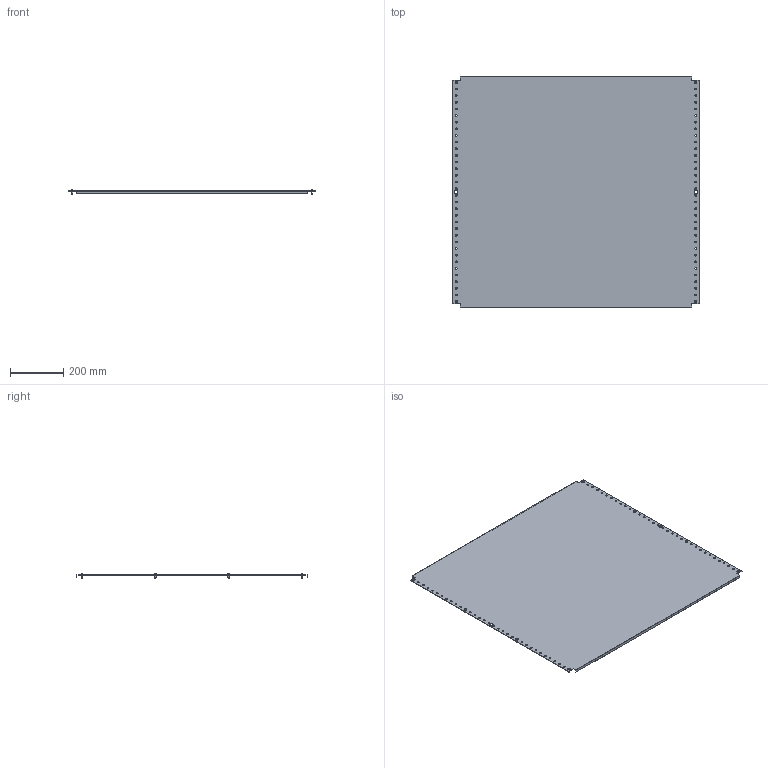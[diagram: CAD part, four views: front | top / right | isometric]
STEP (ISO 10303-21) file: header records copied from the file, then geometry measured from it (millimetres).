
FILE_DESCRIPTION (( 'STEP AP203' ), '1' );
FILE_NAME ('R6MP10100.STEP', '2025-03-28T12:04:52', ( '' ), ( '' ), 'SwSTEP 2.0', 'SolidWorks 2022', '' );
FILE_SCHEMA (( 'CONFIG_CONTROL_DESIGN' ));
Length unit declared in the file: millimetre
Products named in the file (3): RB.3293.00.00.0_-04; M5x12 DIN 7500 C Torx Zinc_stright; R6MP10100
Assembly tree (9 placements, depth 2):
  R6MP10100
    RB.3293.00.00.0_-04
    M5x12 DIN 7500 C Torx Zinc_stright  x8
Bounding box: 925 x 870 x 15.56 mm (x, y, z)
Volume: 1470183.3 mm3; surface area: 1642338.9 mm2
Topology: 9 solids, 9 shells, 230 faces, 540 edges, 336 vertices
Faces by surface type: plane 94, cylinder 88, torus 16, cone 16, sphere 8, bspline 8
Full cylindrical faces by diameter (mm): 5 x8, 6.5 x68, 9.5 x8
Entity records: 4453 total; most frequent: CARTESIAN_POINT 800, DIRECTION 660, ORIENTED_EDGE 504, EDGE_LOOP 334, AXIS2_PLACEMENT_3D 286, EDGE_CURVE 252, VERTEX_POINT 214, FACE_OUTER_BOUND 192
